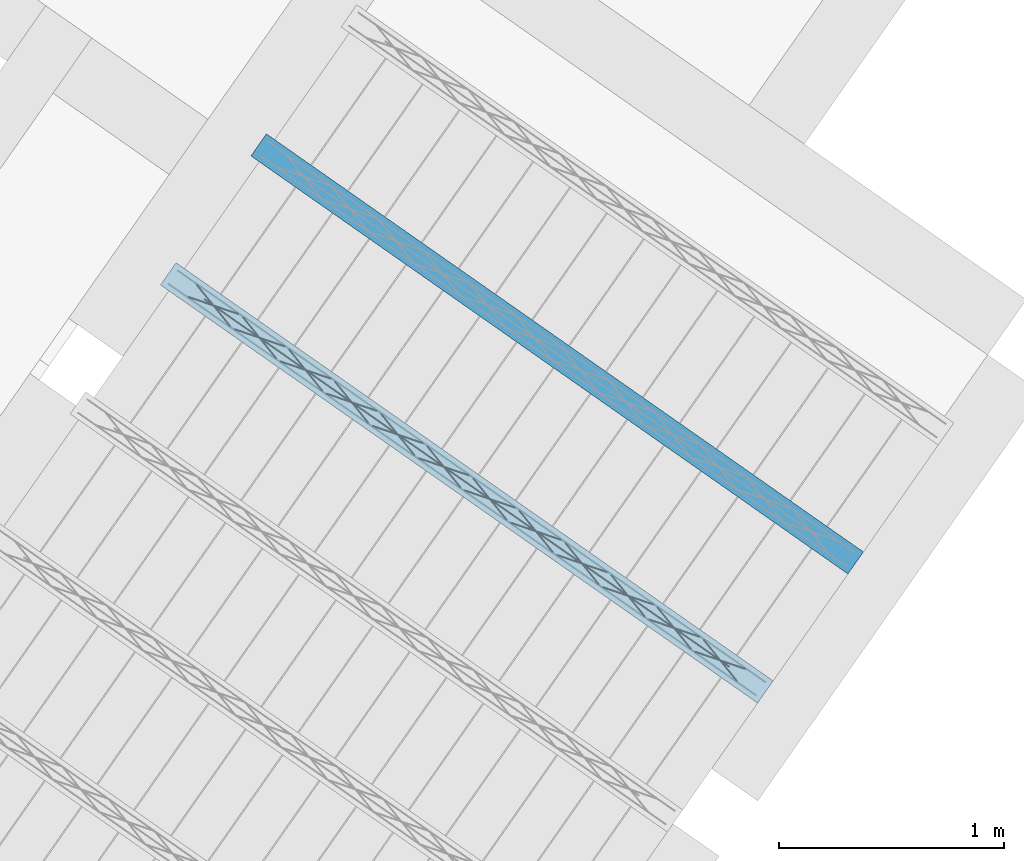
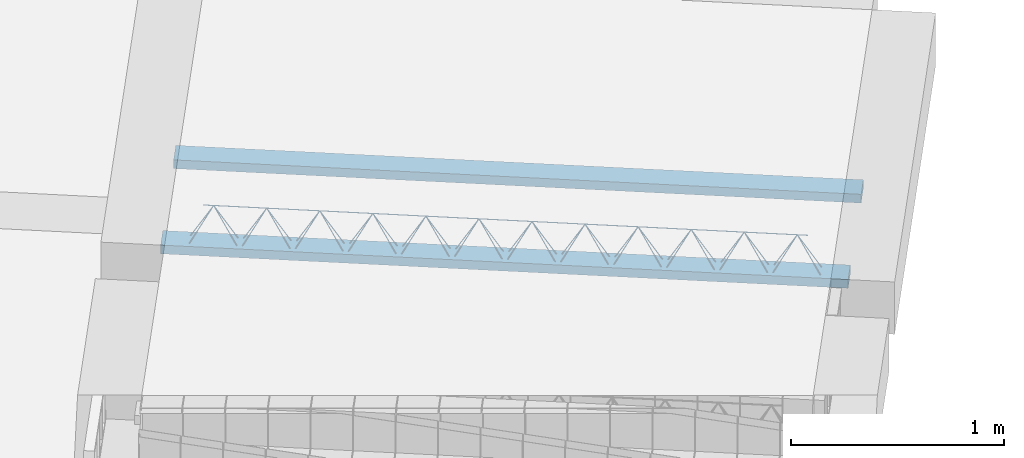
# One storey, part 14 of 46: 2 beams.
"""IFC2X3 building model written with IfcOpenShell, lengths in metres."""

import ifcopenshell
import ifcopenshell.guid

model = None  # the IFC model being written
_history = None  # IfcOwnerHistory: only IFC2X3 demands one
_inside = {}  # id of a spatial element -> (the spatial element, [elements in it])
_under = {}  # id of a project, library or spatial element -> (it, [spatial elements below it])
_declared = {}  # id of a project -> (the project, [libraries it declares])
_typed = {}  # id of a type object -> (the type object, [elements of that type])
_made_of = {}  # id of a material, layer set ... -> (it, [elements and type objects made of it])


def new_model(schema):
    """Start an empty IFC model of exactly this schema.

    Asked for "IFC4X3", IfcOpenShell would pick the latest addendum, in which some entities
    have other attributes; the version numbers below select the first issue.
    IFC2X3 requires an IfcOwnerHistory on every rooted entity: one is made here for all.
    """
    global model, _history
    if schema == "IFC4X3":
        model = ifcopenshell.file(schema_version=(4, 3, 0, 0))
    else:
        model = ifcopenshell.file(schema=schema)
    _inside.clear()
    _under.clear()
    _declared.clear()
    _typed.clear()
    _made_of.clear()
    _history = None
    if model.schema == "IFC2X3":
        org = make("IfcOrganization", Name="unknown")
        user = make(
            "IfcPersonAndOrganization",
            ThePerson=make("IfcPerson", FamilyName="unknown"),
            TheOrganization=org,
        )
        app = make(
            "IfcApplication",
            ApplicationDeveloper=org,
            Version="unknown",
            ApplicationFullName="unknown",
            ApplicationIdentifier="unknown",
        )
        _history = make(
            "IfcOwnerHistory",
            OwningUser=user,
            OwningApplication=app,
            ChangeAction="ADDED",
            CreationDate=0,
        )
    return model


def make(cls, **values):
    """One entity of the class cls with the attributes given. An attribute that is None is left unset."""
    return model.create_entity(
        cls, **{name: value for name, value in values.items() if value is not None}
    )


def entity(cls, *values):
    """Any entity or typed value of the class cls, its attributes in the order of the schema. None: left unset."""
    e = model.create_entity(cls)
    for i, value in enumerate(values):
        if value is not None:
            e[i] = value
    return e


def rooted(cls, **values):
    """An entity with a GlobalId (a new one), such as an element, a storey or a relation."""
    return make(cls, GlobalId=ifcopenshell.guid.new(), OwnerHistory=_history, **values)


def si_unit(unit_type, name, prefix=None):
    """IfcSIUnit, for example si_unit("LENGTHUNIT", "METRE", prefix="MILLI")."""
    return make("IfcSIUnit", UnitType=unit_type, Prefix=prefix, Name=name)


def converted_unit(unit_type, name, factor, base, dimensions=None, offset=None):
    """IfcConversionBasedUnit, such as the inch: factor (a typed value) times the base unit."""
    return make(
        "IfcConversionBasedUnit"
        if offset is None
        else "IfcConversionBasedUnitWithOffset",
        ConversionOffset=offset,
        Dimensions=None
        if dimensions is None
        else entity("IfcDimensionalExponents", *dimensions),
        UnitType=unit_type,
        Name=name,
        ConversionFactor=make(
            "IfcMeasureWithUnit", ValueComponent=factor, UnitComponent=base
        ),
    )


def derived_unit(unit_type, elements):
    """IfcDerivedUnit: a product of units, each with its exponent."""
    return make(
        "IfcDerivedUnit",
        Elements=[
            make("IfcDerivedUnitElement", Unit=unit, Exponent=power)
            for unit, power in elements
        ],
        UnitType=unit_type,
    )


def assignment(units):
    """IfcUnitAssignment: the units of a project."""
    return None if units is None else make("IfcUnitAssignment", Units=units)


def point(xyz):
    """IfcCartesianPoint."""
    return None if xyz is None else make("IfcCartesianPoint", Coordinates=xyz)


def direction(xyz):
    """IfcDirection."""
    return None if xyz is None else make("IfcDirection", DirectionRatios=xyz)


def frame(location, z_axis=None, x_axis=None):
    """IfcAxis2Placement3D, a coordinate frame: its origin and axes. An axis left out is left unset."""
    return make(
        "IfcAxis2Placement3D",
        Location=point(location),
        Axis=direction(z_axis),
        RefDirection=direction(x_axis),
    )


def frame_2d(location, x_axis=None):
    """IfcAxis2Placement2D, a coordinate frame in the plane: its origin and x axis."""
    return make(
        "IfcAxis2Placement2D", Location=point(location), RefDirection=direction(x_axis)
    )


def origin():
    """The frame at (0, 0, 0) with its axes left unset."""
    return frame((0.0, 0.0, 0.0))


def origin_2d_with_axis():
    """The frame at (0, 0) in the plane with the x axis (1, 0) written out."""
    return frame_2d((0.0, 0.0), x_axis=(1.0, 0.0))


def place(relative_to, where):
    """IfcLocalPlacement: puts the frame where relative to a parent placement (None: the world)."""
    return make(
        "IfcLocalPlacement", PlacementRelTo=relative_to, RelativePlacement=where
    )


def context(
    kind, dimensions, precision=None, world=None, true_north=None, identifier=None
):
    """IfcGeometricRepresentationContext, for example the 3D "Model" context."""
    return make(
        "IfcGeometricRepresentationContext",
        ContextIdentifier=identifier,
        ContextType=kind,
        CoordinateSpaceDimension=dimensions,
        Precision=precision,
        WorldCoordinateSystem=world,
        TrueNorth=true_north,
    )


def subcontext(parent, identifier, kind, view, scale=None):
    """IfcGeometricRepresentationSubContext, for example "Body" below "Model"."""
    return make(
        "IfcGeometricRepresentationSubContext",
        ContextIdentifier=identifier,
        ContextType=kind,
        ParentContext=parent,
        TargetScale=scale,
        TargetView=view,
    )


def project(units=None, contexts=None):
    """IfcProject with its units and contexts."""
    return rooted(
        "IfcProject",
        Name="project",
        RepresentationContexts=contexts,
        UnitsInContext=assignment(units),
    )


def spatial(cls, under=None, at=None, **own):
    """A site, building, storey or space (cls), placed at a placement, below another one or the project."""
    s = rooted(cls, ObjectPlacement=at, **own)
    if under is not None:
        _under.setdefault(under.id(), (under, []))[1].append(s)
    return s


def profile(cls, at=None, kind="AREA", **sizes):
    """A parametric profile (cls). Its sizes go by their IFC names, for example OverallWidth=200.0."""
    return make(cls, ProfileType=kind, Position=at, **sizes)


def rectangle(**sizes):
    """IfcRectangleProfileDef."""
    return profile("IfcRectangleProfileDef", **sizes)


def circle(**sizes):
    """IfcCircleProfileDef."""
    return profile("IfcCircleProfileDef", **sizes)


def extrude(swept, where, along, depth):
    """IfcExtrudedAreaSolid: the profile swept, set in the frame where, extruded along a direction by depth."""
    return make(
        "IfcExtrudedAreaSolid",
        SweptArea=swept,
        Position=where,
        ExtrudedDirection=direction(along),
        Depth=depth,
    )


def shape(context_of_items, identifier, shape_type, items):
    """IfcShapeRepresentation: the items that make up one representation, for example the "Body"."""
    return make(
        "IfcShapeRepresentation",
        ContextOfItems=context_of_items,
        RepresentationIdentifier=identifier,
        RepresentationType=shape_type,
        Items=items,
    )


def material(Name=None, Category=None):
    """IfcMaterial."""
    return make("IfcMaterial", Name=Name, Category=Category)


def made_of(thing, what):
    """Note that an element or type object is made of a material, layer set ...; save() writes the relation."""
    if what is not None:
        _made_of.setdefault(what.id(), (what, []))[1].append(thing)
    return thing


def type_object(cls, material=None, **own):
    """A type object (cls), such as IfcWallType, which elements share."""
    return made_of(rooted(cls, **own), material)


def element(
    cls,
    number,
    at=None,
    inside=None,
    cuts=None,
    type_object=None,
    material=None,
    context=None,
    identifier="Body",
    shape_type=None,
    held_by="IfcProductDefinitionShape",
    body=None,
    shapes=None,
    **own,
):
    """One element of the class cls, such as IfcWall. Its Tag is "e" and its number.

    at: its placement. inside: the storey or other place that contains it. cuts: it is an
    opening in that element (IfcRelVoidsElement). A single representation is given by context,
    identifier, shape_type and body (its items); several are given by shapes. held_by: the class
    of the entity that holds the representations. save() writes the other relations.
    """
    e = rooted(cls, Tag="e%d" % number, ObjectPlacement=at, **own)
    if body is not None:
        shapes = [shape(context, identifier, shape_type, body)]
    if shapes is not None:
        e.Representation = make(held_by, Representations=shapes)
    if inside is not None:
        _inside.setdefault(inside.id(), (inside, []))[1].append(e)
    if cuts is not None:
        rooted(
            "IfcRelVoidsElement", RelatingBuildingElement=cuts, RelatedOpeningElement=e
        )
    if type_object is not None:
        _typed.setdefault(type_object.id(), (type_object, []))[1].append(e)
    return made_of(e, material)


def aggregate(whole, parts):
    """IfcRelAggregates: a whole, such as a stair, and the parts it consists of."""
    return rooted("IfcRelAggregates", RelatingObject=whole, RelatedObjects=parts)


def save(model, path):
    """Write the relations noted so far, then the file.

    IfcRelAggregates (storeys below a building ...), IfcRelContainedInSpatialStructure (elements
    in a storey), IfcRelDefinesByType, IfcRelAssociatesMaterial and IfcRelDeclares: one each for
    every whole, place, type object, material and project.
    """
    for whole, parts in _under.values():
        aggregate(whole, parts)
    for where, things in _inside.values():
        rooted(
            "IfcRelContainedInSpatialStructure",
            RelatedElements=things,
            RelatingStructure=where,
        )
    for kind, things in _typed.values():
        rooted("IfcRelDefinesByType", RelatedObjects=things, RelatingType=kind)
    for what, things in _made_of.values():
        rooted("IfcRelAssociatesMaterial", RelatedObjects=things, RelatingMaterial=what)
    for by, libraries in _declared.values():
        rooted("IfcRelDeclares", RelatingContext=by, RelatedDefinitions=libraries)
    model.write(path)


model = new_model("IFC2X3")

# Units and contexts
model_context = context("Model", 3, precision=1e-05, world=origin(), true_north=direction((6.123031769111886e-17, 1.0)))
body_context = subcontext(model_context, "Body", "Model", "MODEL_VIEW")
ifc_project = project(units=[si_unit("LENGTHUNIT", "METRE"), si_unit("AREAUNIT", "SQUARE_METRE"), si_unit("VOLUMEUNIT", "CUBIC_METRE"), converted_unit("PLANEANGLEUNIT", "DEGREE", entity("IfcPlaneAngleMeasure", 0.017453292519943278), si_unit("PLANEANGLEUNIT", "RADIAN"), dimensions=[0, 0, 0, 0, 0, 0, 0]), si_unit("MASSUNIT", "GRAM", prefix="KILO"), derived_unit("MASSDENSITYUNIT", [(si_unit("MASSUNIT", "GRAM", prefix="KILO"), 1), (si_unit("LENGTHUNIT", "METRE"), -3)]), derived_unit("IONCONCENTRATIONUNIT", [(si_unit("MASSUNIT", "GRAM", prefix="KILO"), 1), (si_unit("LENGTHUNIT", "METRE"), -3)]), derived_unit("MOMENTOFINERTIAUNIT", [(si_unit("LENGTHUNIT", "METRE"), 4)]), si_unit("TIMEUNIT", "SECOND"), si_unit("FREQUENCYUNIT", "HERTZ"), si_unit("THERMODYNAMICTEMPERATUREUNIT", "DEGREE_CELSIUS"), derived_unit("THERMALTRANSMITTANCEUNIT", [(si_unit("MASSUNIT", "GRAM", prefix="KILO"), 1), (si_unit("THERMODYNAMICTEMPERATUREUNIT", "KELVIN"), -1), (si_unit("TIMEUNIT", "SECOND"), -3)]), derived_unit("THERMALCONDUCTANCEUNIT", [(si_unit("MASSUNIT", "GRAM", prefix="KILO"), 1), (si_unit("THERMODYNAMICTEMPERATUREUNIT", "KELVIN"), -1), (si_unit("TIMEUNIT", "SECOND"), -3), (si_unit("LENGTHUNIT", "METRE"), 1)]), derived_unit("VOLUMETRICFLOWRATEUNIT", [(si_unit("LENGTHUNIT", "METRE", prefix="DECI"), 3), (si_unit("TIMEUNIT", "SECOND"), -1)]), derived_unit("MASSFLOWRATEUNIT", [(si_unit("MASSUNIT", "GRAM", prefix="KILO"), 1), (si_unit("TIMEUNIT", "SECOND"), -1)]), derived_unit("ROTATIONALFREQUENCYUNIT", [(si_unit("TIMEUNIT", "SECOND"), -1)]), si_unit("ELECTRICCURRENTUNIT", "AMPERE"), si_unit("ELECTRICVOLTAGEUNIT", "VOLT"), si_unit("POWERUNIT", "WATT"), si_unit("FORCEUNIT", "NEWTON", prefix="KILO"), si_unit("ILLUMINANCEUNIT", "LUX"), si_unit("LUMINOUSFLUXUNIT", "LUMEN"), si_unit("LUMINOUSINTENSITYUNIT", "CANDELA"), si_unit("ENERGYUNIT", "JOULE"), derived_unit("USERDEFINED", [(si_unit("MASSUNIT", "GRAM", prefix="KILO"), -1), (si_unit("LENGTHUNIT", "METRE"), -2), (si_unit("TIMEUNIT", "SECOND"), 3), (si_unit("LUMINOUSFLUXUNIT", "LUMEN"), 1)]), derived_unit("USERDEFINED", [(si_unit("MASSUNIT", "GRAM", prefix="KILO"), 1), (si_unit("TIMEUNIT", "SECOND"), -3), (si_unit("LENGTHUNIT", "METRE"), 3), (si_unit("ELECTRICCURRENTUNIT", "AMPERE"), -2)]), derived_unit("SOUNDPOWERUNIT", [(si_unit("MASSUNIT", "GRAM", prefix="KILO"), 1), (si_unit("TIMEUNIT", "SECOND"), -3), (si_unit("LENGTHUNIT", "METRE"), 2)]), derived_unit("SOUNDPRESSUREUNIT", [(si_unit("MASSUNIT", "GRAM", prefix="KILO"), 1), (si_unit("LENGTHUNIT", "METRE"), -1), (si_unit("TIMEUNIT", "SECOND"), -2)]), derived_unit("LINEARVELOCITYUNIT", [(si_unit("LENGTHUNIT", "METRE"), 1), (si_unit("TIMEUNIT", "SECOND"), -1)]), si_unit("PRESSUREUNIT", "PASCAL"), derived_unit("USERDEFINED", [(si_unit("MASSUNIT", "GRAM", prefix="KILO"), 1), (si_unit("LENGTHUNIT", "METRE"), -2), (si_unit("TIMEUNIT", "SECOND"), -2)]), derived_unit("LINEARFORCEUNIT", [(si_unit("MASSUNIT", "GRAM", prefix="KILO"), 1), (si_unit("TIMEUNIT", "SECOND"), -2)]), derived_unit("PLANARFORCEUNIT", [(si_unit("MASSUNIT", "GRAM", prefix="KILO"), 1), (si_unit("LENGTHUNIT", "METRE"), -1), (si_unit("TIMEUNIT", "SECOND"), -2)]), derived_unit("SPECIFICHEATCAPACITYUNIT", [(si_unit("THERMODYNAMICTEMPERATUREUNIT", "KELVIN"), -1), (si_unit("LENGTHUNIT", "METRE"), 2), (si_unit("TIMEUNIT", "SECOND"), -2)]), derived_unit("HEATFLUXDENSITYUNIT", [(si_unit("MASSUNIT", "GRAM", prefix="KILO"), 1), (si_unit("TIMEUNIT", "SECOND"), -3)]), derived_unit("HEATINGVALUEUNIT", [(si_unit("LENGTHUNIT", "METRE"), 2), (si_unit("TIMEUNIT", "SECOND"), -2)]), derived_unit("VAPORPERMEABILITYUNIT", [(si_unit("LENGTHUNIT", "METRE"), -1), (si_unit("TIMEUNIT", "SECOND"), 1)]), derived_unit("DYNAMICVISCOSITYUNIT", [(si_unit("MASSUNIT", "GRAM", prefix="KILO"), 1), (si_unit("TIMEUNIT", "SECOND"), -1), (si_unit("LENGTHUNIT", "METRE"), -1)]), derived_unit("THERMALEXPANSIONCOEFFICIENTUNIT", [(si_unit("THERMODYNAMICTEMPERATUREUNIT", "KELVIN"), -1)]), derived_unit("MODULUSOFELASTICITYUNIT", [(si_unit("MASSUNIT", "GRAM", prefix="KILO"), 1), (si_unit("LENGTHUNIT", "METRE"), -1), (si_unit("TIMEUNIT", "SECOND"), -2)]), derived_unit("ISOTHERMALMOISTURECAPACITYUNIT", [(si_unit("MASSUNIT", "GRAM", prefix="KILO"), -1), (si_unit("LENGTHUNIT", "METRE"), 3)]), derived_unit("MOISTUREDIFFUSIVITYUNIT", [(si_unit("TIMEUNIT", "SECOND"), -1), (si_unit("LENGTHUNIT", "METRE"), 2)]), derived_unit("MASSPERLENGTHUNIT", [(si_unit("MASSUNIT", "GRAM", prefix="KILO"), 1), (si_unit("LENGTHUNIT", "METRE"), -1)]), derived_unit("THERMALRESISTANCEUNIT", [(si_unit("MASSUNIT", "GRAM", prefix="KILO"), -1), (si_unit("TIMEUNIT", "SECOND"), 3), (si_unit("THERMODYNAMICTEMPERATUREUNIT", "KELVIN"), 1)]), derived_unit("ACCELERATIONUNIT", [(si_unit("LENGTHUNIT", "METRE"), 1), (si_unit("TIMEUNIT", "SECOND"), -2)]), derived_unit("ANGULARVELOCITYUNIT", [(si_unit("TIMEUNIT", "SECOND"), -1), (si_unit("PLANEANGLEUNIT", "RADIAN"), 1)]), derived_unit("LINEARSTIFFNESSUNIT", [(si_unit("MASSUNIT", "GRAM", prefix="KILO"), 1), (si_unit("TIMEUNIT", "SECOND"), -2)]), derived_unit("WARPINGCONSTANTUNIT", [(si_unit("LENGTHUNIT", "METRE"), 6)]), derived_unit("LINEARMOMENTUNIT", [(si_unit("MASSUNIT", "GRAM", prefix="KILO"), 1), (si_unit("LENGTHUNIT", "METRE"), 1), (si_unit("TIMEUNIT", "SECOND"), -2)]), derived_unit("TORQUEUNIT", [(si_unit("MASSUNIT", "GRAM", prefix="KILO"), 1), (si_unit("LENGTHUNIT", "METRE"), 2), (si_unit("TIMEUNIT", "SECOND"), -2)])], contexts=[model_context])

# Site, building, storey
site_placement = place(None, origin())
site = spatial("IfcSite", under=ifc_project, at=site_placement, Name="Default", CompositionType="ELEMENT")
building_placement = place(site_placement, origin())
building = spatial("IfcBuilding", under=site, at=building_placement, CompositionType="ELEMENT")
storey_placement = place(building_placement, frame((0.0, 0.0, 99.52000000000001)))
storey = spatial("IfcBuildingStorey", under=building, at=storey_placement, Name="F1", CompositionType="ELEMENT", Elevation=99.52000000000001)

# Beams
beam_type = type_object("IfcBeamType", Name="Vigueta 7 (Paño 4) (Mf = 14.16)", PredefinedType="JOIST")
beam_1_placement = place(storey_placement, origin())
element("IfcBeam", 1, at=beam_1_placement, inside=storey, type_object=beam_type, Name="Vigueta 7 (Paño 4) (Mf = 14.16)", ObjectType="Mf = 14.16", context=body_context, shape_type="SweptSolid", body=[
    extrude(rectangle(XDim=3.24, YDim=0.12000000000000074, at=frame_2d((-4.440892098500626e-16, -4.718447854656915e-16), x_axis=(1.0, 0.0))), frame((8.191466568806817, -1.2795548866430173, 0.2000000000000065), z_axis=(0.0, 0.0, 1.0), x_axis=(0.8191520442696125, -0.5735764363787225, 0.0)), (0.0, 0.0, 1.0), 0.04999999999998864),
    extrude(circle(Radius=0.0025, at=origin_2d_with_axis()), frame((6.86345115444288, -0.39361636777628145, 0.22500000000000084), z_axis=(0.8191520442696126, -0.5735764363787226, 0.0), x_axis=(-0.5735764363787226, -0.8191520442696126, 0.0)), (0.0, 0.0, 1.0), 3.191999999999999),
    extrude(circle(Radius=0.0025, at=origin_2d_with_axis()), frame((7.024174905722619, -0.46220846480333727, 0.4500000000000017), z_axis=(0.8191520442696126, -0.5735764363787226, 0.0), x_axis=(-0.5735764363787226, -0.8191520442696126, 0.0)), (0.0, 0.0, 1.0), 2.849999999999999),
    extrude(circle(Radius=0.0025, at=origin_2d_with_axis()), frame((9.3995458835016, -2.169409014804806, 0.22500000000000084), z_axis=(-0.3145304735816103, 0.389334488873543, 0.8657304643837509), x_axis=(-0.7778747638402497, -0.6284193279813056, 0.0)), (0.0, 0.0, 1.0), 0.2598961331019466),
    extrude(circle(Radius=0.0025, at=origin_2d_with_axis()), frame((9.19475787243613, -2.026014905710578, 0.22499999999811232), z_axis=(0.47343050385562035, -0.1624017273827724, 0.8657304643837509), x_axis=(-0.3244721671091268, -0.9458952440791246, 0.0)), (0.0, 0.0, 1.0), 0.25989613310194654),
    extrude(circle(Radius=0.0025, at=origin_2d_with_axis()), frame((9.194757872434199, -2.026014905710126, 0.22500000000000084), z_axis=(-0.3145304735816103, 0.389334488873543, 0.8657304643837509), x_axis=(-0.7778747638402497, -0.6284193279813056, 0.0)), (0.0, 0.0, 1.0), 0.2598961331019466),
    extrude(circle(Radius=0.0025, at=origin_2d_with_axis()), frame((8.989969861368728, -1.882620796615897, 0.22499999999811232), z_axis=(0.47343050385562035, -0.1624017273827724, 0.8657304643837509), x_axis=(-0.3244721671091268, -0.9458952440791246, 0.0)), (0.0, 0.0, 1.0), 0.25989613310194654),
    extrude(circle(Radius=0.0025, at=origin_2d_with_axis()), frame((8.989969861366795, -1.8826207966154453, 0.22500000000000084), z_axis=(-0.3145304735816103, 0.389334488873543, 0.8657304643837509), x_axis=(-0.7778747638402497, -0.6284193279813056, 0.0)), (0.0, 0.0, 1.0), 0.2598961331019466),
    extrude(circle(Radius=0.0025, at=origin_2d_with_axis()), frame((8.785181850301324, -1.7392266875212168, 0.22499999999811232), z_axis=(0.47343050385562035, -0.1624017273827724, 0.8657304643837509), x_axis=(-0.3244721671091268, -0.9458952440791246, 0.0)), (0.0, 0.0, 1.0), 0.25989613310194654),
    extrude(circle(Radius=0.0025, at=origin_2d_with_axis()), frame((8.785181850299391, -1.7392266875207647, 0.22500000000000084), z_axis=(-0.3145304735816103, 0.389334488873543, 0.8657304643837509), x_axis=(-0.7778747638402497, -0.6284193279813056, 0.0)), (0.0, 0.0, 1.0), 0.2598961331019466),
    extrude(circle(Radius=0.0025, at=origin_2d_with_axis()), frame((8.580393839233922, -1.595832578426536, 0.22499999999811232), z_axis=(0.47343050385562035, -0.1624017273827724, 0.8657304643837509), x_axis=(-0.3244721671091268, -0.9458952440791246, 0.0)), (0.0, 0.0, 1.0), 0.25989613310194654),
    extrude(circle(Radius=0.0025, at=origin_2d_with_axis()), frame((8.580393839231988, -1.5958325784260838, 0.22500000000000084), z_axis=(-0.3145304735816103, 0.389334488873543, 0.8657304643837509), x_axis=(-0.7778747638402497, -0.6284193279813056, 0.0)), (0.0, 0.0, 1.0), 0.2598961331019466),
    extrude(circle(Radius=0.0025, at=origin_2d_with_axis()), frame((8.375605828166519, -1.4524384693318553, 0.22499999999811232), z_axis=(0.47343050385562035, -0.1624017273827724, 0.8657304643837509), x_axis=(-0.3244721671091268, -0.9458952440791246, 0.0)), (0.0, 0.0, 1.0), 0.25989613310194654),
    extrude(circle(Radius=0.0025, at=origin_2d_with_axis()), frame((8.375605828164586, -1.4524384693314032, 0.22500000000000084), z_axis=(-0.3145304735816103, 0.389334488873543, 0.8657304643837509), x_axis=(-0.7778747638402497, -0.6284193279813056, 0.0)), (0.0, 0.0, 1.0), 0.2598961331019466),
    extrude(circle(Radius=0.0025, at=origin_2d_with_axis()), frame((8.170817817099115, -1.3090443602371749, 0.22499999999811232), z_axis=(0.47343050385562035, -0.1624017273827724, 0.8657304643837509), x_axis=(-0.3244721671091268, -0.9458952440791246, 0.0)), (0.0, 0.0, 1.0), 0.25989613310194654),
    extrude(circle(Radius=0.0025, at=origin_2d_with_axis()), frame((8.170817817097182, -1.3090443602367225, 0.22500000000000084), z_axis=(-0.3145304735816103, 0.389334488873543, 0.8657304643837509), x_axis=(-0.7778747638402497, -0.6284193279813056, 0.0)), (0.0, 0.0, 1.0), 0.2598961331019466),
    extrude(circle(Radius=0.0025, at=origin_2d_with_axis()), frame((7.966029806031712, -1.165650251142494, 0.22499999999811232), z_axis=(0.47343050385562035, -0.1624017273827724, 0.8657304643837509), x_axis=(-0.3244721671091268, -0.9458952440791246, 0.0)), (0.0, 0.0, 1.0), 0.25989613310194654),
    extrude(circle(Radius=0.0025, at=origin_2d_with_axis()), frame((7.966029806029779, -1.165650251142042, 0.22500000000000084), z_axis=(-0.3145304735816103, 0.389334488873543, 0.8657304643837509), x_axis=(-0.7778747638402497, -0.6284193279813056, 0.0)), (0.0, 0.0, 1.0), 0.2598961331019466),
    extrude(circle(Radius=0.0025, at=origin_2d_with_axis()), frame((7.761241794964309, -1.0222561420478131, 0.22499999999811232), z_axis=(0.47343050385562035, -0.1624017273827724, 0.8657304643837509), x_axis=(-0.3244721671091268, -0.9458952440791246, 0.0)), (0.0, 0.0, 1.0), 0.25989613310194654),
    extrude(circle(Radius=0.0025, at=origin_2d_with_axis()), frame((7.761241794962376, -1.0222561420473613, 0.22500000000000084), z_axis=(-0.3145304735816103, 0.389334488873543, 0.8657304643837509), x_axis=(-0.7778747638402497, -0.6284193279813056, 0.0)), (0.0, 0.0, 1.0), 0.2598961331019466),
    extrude(circle(Radius=0.0025, at=origin_2d_with_axis()), frame((7.556453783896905, -0.8788620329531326, 0.22499999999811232), z_axis=(0.47343050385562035, -0.1624017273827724, 0.8657304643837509), x_axis=(-0.3244721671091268, -0.9458952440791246, 0.0)), (0.0, 0.0, 1.0), 0.25989613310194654),
    extrude(circle(Radius=0.0025, at=origin_2d_with_axis()), frame((7.556453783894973, -0.8788620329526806, 0.22500000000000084), z_axis=(-0.3145304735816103, 0.389334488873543, 0.8657304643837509), x_axis=(-0.7778747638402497, -0.6284193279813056, 0.0)), (0.0, 0.0, 1.0), 0.2598961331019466),
    extrude(circle(Radius=0.0025, at=origin_2d_with_axis()), frame((7.351665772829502, -0.735467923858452, 0.22499999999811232), z_axis=(0.47343050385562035, -0.1624017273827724, 0.8657304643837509), x_axis=(-0.3244721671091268, -0.9458952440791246, 0.0)), (0.0, 0.0, 1.0), 0.25989613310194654),
    extrude(circle(Radius=0.0025, at=origin_2d_with_axis()), frame((7.3516657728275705, -0.7354679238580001, 0.22500000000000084), z_axis=(-0.3145304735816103, 0.389334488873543, 0.8657304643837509), x_axis=(-0.7778747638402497, -0.6284193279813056, 0.0)), (0.0, 0.0, 1.0), 0.2598961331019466),
    extrude(circle(Radius=0.0025, at=origin_2d_with_axis()), frame((7.1468777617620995, -0.5920738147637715, 0.22499999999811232), z_axis=(0.47343050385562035, -0.1624017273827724, 0.8657304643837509), x_axis=(-0.3244721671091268, -0.9458952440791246, 0.0)), (0.0, 0.0, 1.0), 0.25989613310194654),
    extrude(circle(Radius=0.0025, at=origin_2d_with_axis()), frame((7.146877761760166, -0.5920738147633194, 0.22500000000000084), z_axis=(-0.3145304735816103, 0.389334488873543, 0.8657304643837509), x_axis=(-0.7778747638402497, -0.6284193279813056, 0.0)), (0.0, 0.0, 1.0), 0.2598961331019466),
    extrude(circle(Radius=0.0025, at=origin_2d_with_axis()), frame((6.942089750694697, -0.44867970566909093, 0.22499999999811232), z_axis=(0.47343050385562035, -0.1624017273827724, 0.8657304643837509), x_axis=(-0.3244721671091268, -0.9458952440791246, 0.0)), (0.0, 0.0, 1.0), 0.25989613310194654),
    extrude(circle(Radius=0.0025, at=origin_2d_with_axis()), frame((6.904748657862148, -0.33463742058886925, 0.22500000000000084), z_axis=(0.8191520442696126, -0.5735764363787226, 0.0), x_axis=(-0.5735764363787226, -0.8191520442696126, 0.0)), (0.0, 0.0, 1.0), 3.191999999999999),
    extrude(circle(Radius=0.0025, at=origin_2d_with_axis()), frame((9.44084338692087, -2.1104300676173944, 0.22500000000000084), z_axis=(-0.47343050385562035, 0.1624017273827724, 0.8657304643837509), x_axis=(-0.3244721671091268, -0.9458952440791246, 0.0)), (0.0, 0.0, 1.0), 0.25989613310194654),
    extrude(circle(Radius=0.0025, at=origin_2d_with_axis()), frame((9.236055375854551, -1.9670359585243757, 0.22499999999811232), z_axis=(0.3145304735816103, -0.389334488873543, 0.8657304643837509), x_axis=(-0.7778747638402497, -0.6284193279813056, 0.0)), (0.0, 0.0, 1.0), 0.2598961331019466),
    extrude(circle(Radius=0.0025, at=origin_2d_with_axis()), frame((9.236055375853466, -1.9670359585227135, 0.22500000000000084), z_axis=(-0.47343050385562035, 0.1624017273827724, 0.8657304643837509), x_axis=(-0.3244721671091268, -0.9458952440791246, 0.0)), (0.0, 0.0, 1.0), 0.25989613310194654),
    extrude(circle(Radius=0.0025, at=origin_2d_with_axis()), frame((9.031267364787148, -1.8236418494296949, 0.22499999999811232), z_axis=(0.3145304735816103, -0.389334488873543, 0.8657304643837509), x_axis=(-0.7778747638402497, -0.6284193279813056, 0.0)), (0.0, 0.0, 1.0), 0.2598961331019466),
    extrude(circle(Radius=0.0025, at=origin_2d_with_axis()), frame((9.031267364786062, -1.823641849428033, 0.22500000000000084), z_axis=(-0.47343050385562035, 0.1624017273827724, 0.8657304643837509), x_axis=(-0.3244721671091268, -0.9458952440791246, 0.0)), (0.0, 0.0, 1.0), 0.25989613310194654),
    extrude(circle(Radius=0.0025, at=origin_2d_with_axis()), frame((8.826479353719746, -1.6802477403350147, 0.22499999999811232), z_axis=(0.3145304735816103, -0.389334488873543, 0.8657304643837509), x_axis=(-0.7778747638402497, -0.6284193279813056, 0.0)), (0.0, 0.0, 1.0), 0.2598961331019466),
    extrude(circle(Radius=0.0025, at=origin_2d_with_axis()), frame((8.826479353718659, -1.6802477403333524, 0.22500000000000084), z_axis=(-0.47343050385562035, 0.1624017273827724, 0.8657304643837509), x_axis=(-0.3244721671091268, -0.9458952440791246, 0.0)), (0.0, 0.0, 1.0), 0.25989613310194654),
    extrude(circle(Radius=0.0025, at=origin_2d_with_axis()), frame((8.621691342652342, -1.5368536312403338, 0.22499999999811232), z_axis=(0.3145304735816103, -0.389334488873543, 0.8657304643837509), x_axis=(-0.7778747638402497, -0.6284193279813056, 0.0)), (0.0, 0.0, 1.0), 0.2598961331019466),
    extrude(circle(Radius=0.0025, at=origin_2d_with_axis()), frame((8.621691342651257, -1.5368536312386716, 0.22500000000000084), z_axis=(-0.47343050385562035, 0.1624017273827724, 0.8657304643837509), x_axis=(-0.3244721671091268, -0.9458952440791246, 0.0)), (0.0, 0.0, 1.0), 0.25989613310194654),
    extrude(circle(Radius=0.0025, at=origin_2d_with_axis()), frame((8.41690333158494, -1.393459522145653, 0.22499999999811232), z_axis=(0.3145304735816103, -0.389334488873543, 0.8657304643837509), x_axis=(-0.7778747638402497, -0.6284193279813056, 0.0)), (0.0, 0.0, 1.0), 0.2598961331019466),
    extrude(circle(Radius=0.0025, at=origin_2d_with_axis()), frame((8.416903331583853, -1.393459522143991, 0.22500000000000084), z_axis=(-0.47343050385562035, 0.1624017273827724, 0.8657304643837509), x_axis=(-0.3244721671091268, -0.9458952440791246, 0.0)), (0.0, 0.0, 1.0), 0.25989613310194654),
    extrude(circle(Radius=0.0025, at=origin_2d_with_axis()), frame((8.212115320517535, -1.2500654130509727, 0.22499999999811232), z_axis=(0.3145304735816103, -0.389334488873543, 0.8657304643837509), x_axis=(-0.7778747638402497, -0.6284193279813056, 0.0)), (0.0, 0.0, 1.0), 0.2598961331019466),
    extrude(circle(Radius=0.0025, at=origin_2d_with_axis()), frame((8.21211532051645, -1.2500654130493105, 0.22500000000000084), z_axis=(-0.47343050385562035, 0.1624017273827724, 0.8657304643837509), x_axis=(-0.3244721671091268, -0.9458952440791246, 0.0)), (0.0, 0.0, 1.0), 0.25989613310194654),
    extrude(circle(Radius=0.0025, at=origin_2d_with_axis()), frame((8.007327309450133, -1.1066713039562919, 0.22499999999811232), z_axis=(0.3145304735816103, -0.389334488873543, 0.8657304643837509), x_axis=(-0.7778747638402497, -0.6284193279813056, 0.0)), (0.0, 0.0, 1.0), 0.2598961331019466),
    extrude(circle(Radius=0.0025, at=origin_2d_with_axis()), frame((8.007327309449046, -1.1066713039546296, 0.22500000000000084), z_axis=(-0.47343050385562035, 0.1624017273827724, 0.8657304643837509), x_axis=(-0.3244721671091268, -0.9458952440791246, 0.0)), (0.0, 0.0, 1.0), 0.25989613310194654),
    extrude(circle(Radius=0.0025, at=origin_2d_with_axis()), frame((7.8025392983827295, -0.9632771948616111, 0.22499999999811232), z_axis=(0.3145304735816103, -0.389334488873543, 0.8657304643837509), x_axis=(-0.7778747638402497, -0.6284193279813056, 0.0)), (0.0, 0.0, 1.0), 0.2598961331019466),
    extrude(circle(Radius=0.0025, at=origin_2d_with_axis()), frame((7.802539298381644, -0.9632771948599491, 0.22500000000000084), z_axis=(-0.47343050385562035, 0.1624017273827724, 0.8657304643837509), x_axis=(-0.3244721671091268, -0.9458952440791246, 0.0)), (0.0, 0.0, 1.0), 0.25989613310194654),
    extrude(circle(Radius=0.0025, at=origin_2d_with_axis()), frame((7.597751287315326, -0.8198830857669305, 0.22499999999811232), z_axis=(0.3145304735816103, -0.389334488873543, 0.8657304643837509), x_axis=(-0.7778747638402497, -0.6284193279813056, 0.0)), (0.0, 0.0, 1.0), 0.2598961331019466),
    extrude(circle(Radius=0.0025, at=origin_2d_with_axis()), frame((7.5977512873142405, -0.8198830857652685, 0.22500000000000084), z_axis=(-0.47343050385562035, 0.1624017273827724, 0.8657304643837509), x_axis=(-0.3244721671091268, -0.9458952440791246, 0.0)), (0.0, 0.0, 1.0), 0.25989613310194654),
    extrude(circle(Radius=0.0025, at=origin_2d_with_axis()), frame((7.392963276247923, -0.6764889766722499, 0.22499999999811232), z_axis=(0.3145304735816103, -0.389334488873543, 0.8657304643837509), x_axis=(-0.7778747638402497, -0.6284193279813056, 0.0)), (0.0, 0.0, 1.0), 0.2598961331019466),
    extrude(circle(Radius=0.0025, at=origin_2d_with_axis()), frame((7.392963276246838, -0.6764889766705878, 0.22500000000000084), z_axis=(-0.47343050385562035, 0.1624017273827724, 0.8657304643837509), x_axis=(-0.3244721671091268, -0.9458952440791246, 0.0)), (0.0, 0.0, 1.0), 0.25989613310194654),
    extrude(circle(Radius=0.0025, at=origin_2d_with_axis()), frame((7.18817526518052, -0.5330948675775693, 0.22499999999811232), z_axis=(0.3145304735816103, -0.389334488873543, 0.8657304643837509), x_axis=(-0.7778747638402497, -0.6284193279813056, 0.0)), (0.0, 0.0, 1.0), 0.2598961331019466),
    extrude(circle(Radius=0.0025, at=origin_2d_with_axis()), frame((7.188175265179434, -0.5330948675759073, 0.22500000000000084), z_axis=(-0.47343050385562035, 0.1624017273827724, 0.8657304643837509), x_axis=(-0.3244721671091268, -0.9458952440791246, 0.0)), (0.0, 0.0, 1.0), 0.25989613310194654),
    extrude(circle(Radius=0.0025, at=origin_2d_with_axis()), frame((6.983387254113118, -0.38970075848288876, 0.22499999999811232), z_axis=(0.3145304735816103, -0.389334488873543, 0.8657304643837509), x_axis=(-0.7778747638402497, -0.6284193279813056, 0.0)), (0.0, 0.0, 1.0), 0.2598961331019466),
])
ifc_material = material(Name="Hormigón armado")
beam_2_placement = place(storey_placement, origin())
element("IfcBeam", 2, at=beam_2_placement, inside=storey, material=ifc_material, Name="238298", context=body_context, shape_type="SweptSolid", body=[
    extrude(rectangle(XDim=0.04999999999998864, YDim=0.12000000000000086, at=frame_2d((0.0, -5.030698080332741e-16), x_axis=(1.0, 0.0))), frame((7.26594376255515, 0.22304537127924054, 0.22500000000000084), z_axis=(0.8191520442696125, -0.5735764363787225, 0.0), x_axis=(0.0, 0.0, -1.0)), (0.0, 0.0, 1.0), 3.2399999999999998),
])

save(model, "model.ifc")
